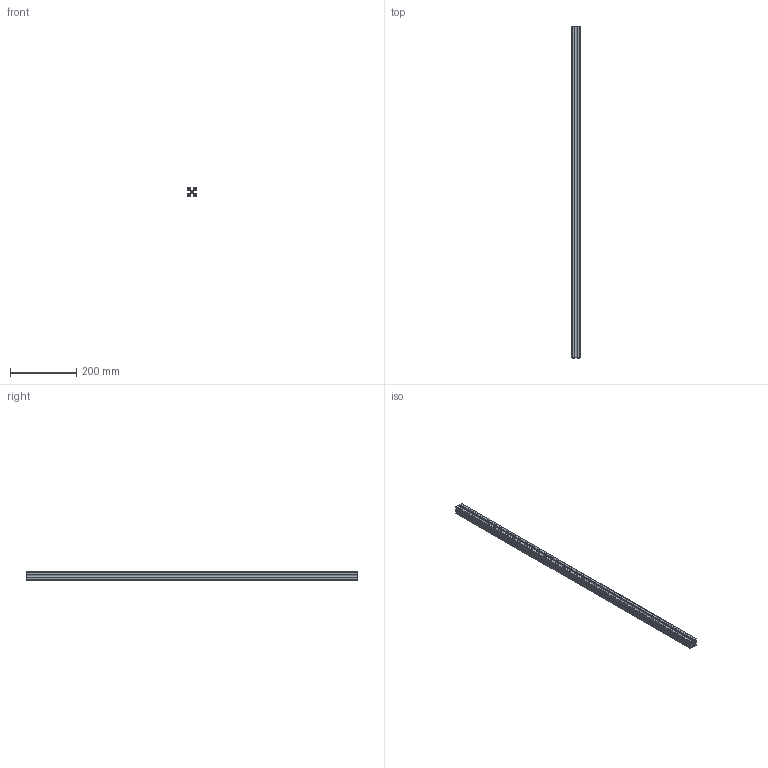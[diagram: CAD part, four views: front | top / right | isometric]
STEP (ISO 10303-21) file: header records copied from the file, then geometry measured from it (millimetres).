
FILE_DESCRIPTION (( 'STEP AP214' ), '1' );
FILE_NAME ('PEP2525-1000.STEP', '2019-10-30T01:05:45', ( '微软用户' ), ( '微软中国' ), 'SwSTEP 2.0', 'SolidWorks 2016', '' );
FILE_SCHEMA (( 'AUTOMOTIVE_DESIGN' ));
Length unit declared in the file: millimetre
Products named in the file (1): PEP2525-1000
Bounding box: 25 x 1000 x 25 mm (x, y, z)
Volume: 251918.5 mm3; surface area: 262326.8 mm2
Topology: 1 solids, 1 shells, 89 faces, 261 edges, 174 vertices
Faces by surface type: cylinder 55, plane 34
Entity records: 4038 total; most frequent: DIRECTION 551, CARTESIAN_POINT 525, ORIENTED_EDGE 522, EDGE_CURVE 261, AXIS2_PLACEMENT_3D 200, VERTEX_POINT 174, LINE 151, VECTOR 151
